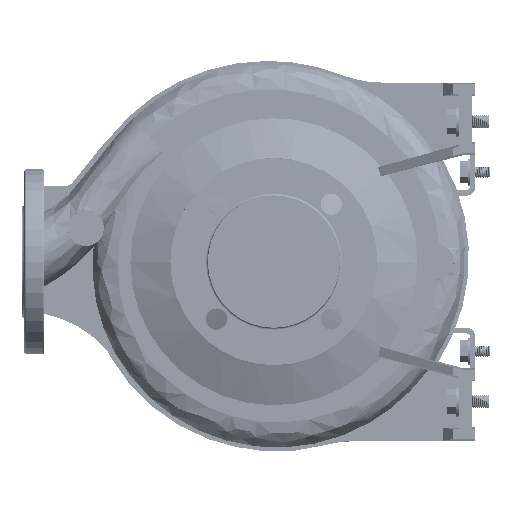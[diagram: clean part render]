
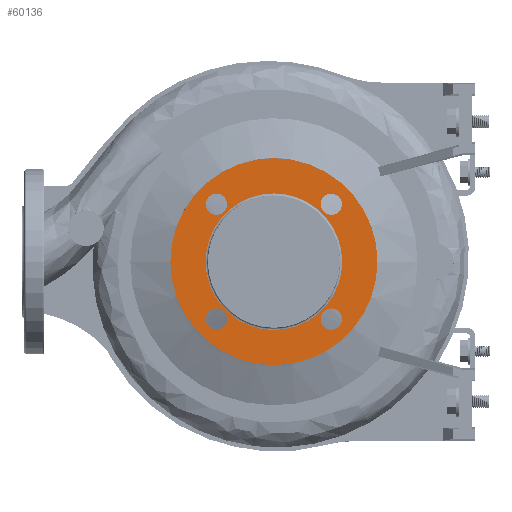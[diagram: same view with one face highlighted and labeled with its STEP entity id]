
A CAD part, left-side view. The second image highlights one B-rep face of the part: STEP entity #60136.
In plain terms, the highlighted planar face has unit normal (-1, 0, 0).
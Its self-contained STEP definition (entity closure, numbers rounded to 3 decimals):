
#426 = DIRECTION ( 'NONE',  ( 0., 0., -1. ) ) ;
#3288 = CARTESIAN_POINT ( 'NONE',  ( -98., 0., 0. ) ) ;
#3597 = CARTESIAN_POINT ( 'NONE',  ( -98., 60.765, 51.265 ) ) ;
#5066 = ORIENTED_EDGE ( 'NONE', *, *, #67155, .F. ) ;
#7021 = ORIENTED_EDGE ( 'NONE', *, *, #65259, .F. ) ;
#7840 = EDGE_CURVE ( 'NONE', #17638, #95635, #43391, .T. ) ;
#8721 = DIRECTION ( 'NONE',  ( -1., 0., 0. ) ) ;
#11951 = VERTEX_POINT ( 'NONE', #48218 ) ;
#14403 = AXIS2_PLACEMENT_3D ( 'NONE', #55106, #112552, #170021 ) ;
#15133 = ORIENTED_EDGE ( 'NONE', *, *, #93824, .F. ) ;
#17638 = VERTEX_POINT ( 'NONE', #85468 ) ;
#21694 = VERTEX_POINT ( 'NONE', #23936 ) ;
#21906 = AXIS2_PLACEMENT_3D ( 'NONE', #97969, #40513, #111174 ) ;
#21968 = AXIS2_PLACEMENT_3D ( 'NONE', #27007, #85423, #171151 ) ;
#23401 = CARTESIAN_POINT ( 'NONE',  ( -98., -41.765, -51.265 ) ) ;
#23936 = CARTESIAN_POINT ( 'NONE',  ( -98., 61., 0. ) ) ;
#24177 = AXIS2_PLACEMENT_3D ( 'NONE', #75425, #132906, #47154 ) ;
#27007 = CARTESIAN_POINT ( 'NONE',  ( -98., -51.265, -51.265 ) ) ;
#27741 = CIRCLE ( 'NONE', #154196, 61. ) ;
#28287 = CARTESIAN_POINT ( 'NONE',  ( -98., 61., 0. ) ) ;
#29274 = ORIENTED_EDGE ( 'NONE', *, *, #75488, .F. ) ;
#30575 = VERTEX_POINT ( 'NONE', #23401 ) ;
#35397 = CIRCLE ( 'NONE', #14403, 9.5 ) ;
#36967 = CIRCLE ( 'NONE', #21906, 9.5 ) ;
#38273 = AXIS2_PLACEMENT_3D ( 'NONE', #171871, #42796, #426 ) ;
#39004 = VERTEX_POINT ( 'NONE', #171833 ) ;
#40513 = DIRECTION ( 'NONE',  ( -1., 0., 0. ) ) ;
#41436 = DIRECTION ( 'NONE',  ( -1., 0., 0. ) ) ;
#42796 = DIRECTION ( 'NONE',  ( -1., 0., 0. ) ) ;
#43391 = CIRCLE ( 'NONE', #73548, 9.5 ) ;
#46056 = CIRCLE ( 'NONE', #21968, 9.5 ) ;
#47154 = DIRECTION ( 'NONE',  ( 0., 1., 0. ) ) ;
#47281 = CIRCLE ( 'NONE', #152617, 9.5 ) ;
#47851 = EDGE_CURVE ( 'NONE', #151304, #21694, #105858, .T. ) ;
#48218 = CARTESIAN_POINT ( 'NONE',  ( -98., -60.765, -51.265 ) ) ;
#48720 = AXIS2_PLACEMENT_3D ( 'NONE', #3288, #60767, #161551 ) ;
#50212 = DIRECTION ( 'NONE',  ( 0., 0., 1. ) ) ;
#50388 = EDGE_CURVE ( 'NONE', #21694, #151304, #27741, .T. ) ;
#50608 = VERTEX_POINT ( 'NONE', #63785 ) ;
#55106 = CARTESIAN_POINT ( 'NONE',  ( -98., 51.265, 51.265 ) ) ;
#55589 = FACE_BOUND ( 'NONE', #142509, .T. ) ;
#57538 = DIRECTION ( 'NONE',  ( 0., 0., 1. ) ) ;
#57964 = AXIS2_PLACEMENT_3D ( 'NONE', #28287, #41436, #170520 ) ;
#60109 = CARTESIAN_POINT ( 'NONE',  ( -98., 51.265, 51.265 ) ) ;
#60136 = ADVANCED_FACE ( 'NONE', ( #168658, #55589, #87565, #160129, #145077, #171443 ), #185575, .T. ) ;
#60767 = DIRECTION ( 'NONE',  ( 1., 0., 0. ) ) ;
#62788 = EDGE_LOOP ( 'NONE', ( #5066, #173967 ) ) ;
#63785 = CARTESIAN_POINT ( 'NONE',  ( -98., 92.5, 0. ) ) ;
#64907 = VERTEX_POINT ( 'NONE', #125473 ) ;
#65259 = EDGE_CURVE ( 'NONE', #86017, #50608, #138951, .T. ) ;
#67155 = EDGE_CURVE ( 'NONE', #64907, #105768, #35397, .T. ) ;
#67720 = CARTESIAN_POINT ( 'NONE',  ( -98., -51.265, 60.765 ) ) ;
#68013 = AXIS2_PLACEMENT_3D ( 'NONE', #87654, #134493, #57538 ) ;
#68618 = DIRECTION ( 'NONE',  ( 1., 0., 0. ) ) ;
#69311 = CARTESIAN_POINT ( 'NONE',  ( -98., -92.5, 0. ) ) ;
#73548 = AXIS2_PLACEMENT_3D ( 'NONE', #179273, #8721, #50212 ) ;
#74214 = EDGE_CURVE ( 'NONE', #30575, #11951, #46056, .T. ) ;
#75425 = CARTESIAN_POINT ( 'NONE',  ( -98., 0., 0. ) ) ;
#75488 = EDGE_CURVE ( 'NONE', #50608, #86017, #167297, .T. ) ;
#84407 = DIRECTION ( 'NONE',  ( 0., 1., 0. ) ) ;
#85423 = DIRECTION ( 'NONE',  ( -1., 0., 0. ) ) ;
#85468 = CARTESIAN_POINT ( 'NONE',  ( -98., 51.265, -60.765 ) ) ;
#85473 = CARTESIAN_POINT ( 'NONE',  ( -98., 51.265, -41.765 ) ) ;
#86017 = VERTEX_POINT ( 'NONE', #69311 ) ;
#87565 = FACE_BOUND ( 'NONE', #92502, .T. ) ;
#87654 = CARTESIAN_POINT ( 'NONE',  ( -98., 51.265, -51.265 ) ) ;
#92502 = EDGE_LOOP ( 'NONE', ( #93793, #15133 ) ) ;
#93536 = AXIS2_PLACEMENT_3D ( 'NONE', #60109, #181296, #161836 ) ;
#93793 = ORIENTED_EDGE ( 'NONE', *, *, #137708, .F. ) ;
#93824 = EDGE_CURVE ( 'NONE', #39004, #166674, #36967, .T. ) ;
#95635 = VERTEX_POINT ( 'NONE', #85473 ) ;
#97969 = CARTESIAN_POINT ( 'NONE',  ( -98., -51.265, 51.265 ) ) ;
#101108 = AXIS2_PLACEMENT_3D ( 'NONE', #124065, #184296, #84407 ) ;
#103373 = EDGE_CURVE ( 'NONE', #11951, #30575, #47281, .T. ) ;
#103520 = ORIENTED_EDGE ( 'NONE', *, *, #47851, .T. ) ;
#105768 = VERTEX_POINT ( 'NONE', #3597 ) ;
#105858 = CIRCLE ( 'NONE', #48720, 61. ) ;
#111174 = DIRECTION ( 'NONE',  ( 0., 0., -1. ) ) ;
#112388 = CARTESIAN_POINT ( 'NONE',  ( -98., -61., 0. ) ) ;
#112552 = DIRECTION ( 'NONE',  ( -1., 0., 0. ) ) ;
#114518 = CIRCLE ( 'NONE', #93536, 9.5 ) ;
#117000 = EDGE_LOOP ( 'NONE', ( #135032, #103520 ) ) ;
#120949 = ORIENTED_EDGE ( 'NONE', *, *, #7840, .F. ) ;
#124065 = CARTESIAN_POINT ( 'NONE',  ( -98., 0., 0. ) ) ;
#125473 = CARTESIAN_POINT ( 'NONE',  ( -98., 41.765, 51.265 ) ) ;
#127147 = EDGE_CURVE ( 'NONE', #105768, #64907, #114518, .T. ) ;
#127463 = CARTESIAN_POINT ( 'NONE',  ( -98., -51.265, -51.265 ) ) ;
#132432 = ORIENTED_EDGE ( 'NONE', *, *, #135997, .F. ) ;
#132906 = DIRECTION ( 'NONE',  ( 1., 0., 0. ) ) ;
#134493 = DIRECTION ( 'NONE',  ( -1., 0., 0. ) ) ;
#135032 = ORIENTED_EDGE ( 'NONE', *, *, #50388, .T. ) ;
#135997 = EDGE_CURVE ( 'NONE', #95635, #17638, #149280, .T. ) ;
#137708 = EDGE_CURVE ( 'NONE', #166674, #39004, #179795, .T. ) ;
#138951 = CIRCLE ( 'NONE', #24177, 92.5 ) ;
#142509 = EDGE_LOOP ( 'NONE', ( #179370, #158077 ) ) ;
#143032 = CARTESIAN_POINT ( 'NONE',  ( -98., 0., 0. ) ) ;
#145077 = FACE_BOUND ( 'NONE', #117000, .T. ) ;
#149280 = CIRCLE ( 'NONE', #68013, 9.5 ) ;
#151304 = VERTEX_POINT ( 'NONE', #112388 ) ;
#152617 = AXIS2_PLACEMENT_3D ( 'NONE', #127463, #184909, #170777 ) ;
#152791 = EDGE_LOOP ( 'NONE', ( #132432, #120949 ) ) ;
#154196 = AXIS2_PLACEMENT_3D ( 'NONE', #143032, #68618, #177772 ) ;
#158077 = ORIENTED_EDGE ( 'NONE', *, *, #74214, .F. ) ;
#160129 = FACE_BOUND ( 'NONE', #62788, .T. ) ;
#161551 = DIRECTION ( 'NONE',  ( 0., 1., 0. ) ) ;
#161836 = DIRECTION ( 'NONE',  ( 0., -1., 0. ) ) ;
#166674 = VERTEX_POINT ( 'NONE', #67720 ) ;
#167297 = CIRCLE ( 'NONE', #101108, 92.5 ) ;
#167748 = EDGE_LOOP ( 'NONE', ( #29274, #7021 ) ) ;
#168658 = FACE_BOUND ( 'NONE', #152791, .T. ) ;
#170021 = DIRECTION ( 'NONE',  ( 0., -1., 0. ) ) ;
#170520 = DIRECTION ( 'NONE',  ( 0., -1., 0. ) ) ;
#170777 = DIRECTION ( 'NONE',  ( 0., 1., 0. ) ) ;
#171151 = DIRECTION ( 'NONE',  ( 0., 1., 0. ) ) ;
#171443 = FACE_OUTER_BOUND ( 'NONE', #167748, .T. ) ;
#171833 = CARTESIAN_POINT ( 'NONE',  ( -98., -51.265, 41.765 ) ) ;
#171871 = CARTESIAN_POINT ( 'NONE',  ( -98., -51.265, 51.265 ) ) ;
#173967 = ORIENTED_EDGE ( 'NONE', *, *, #127147, .F. ) ;
#177772 = DIRECTION ( 'NONE',  ( 0., 1., 0. ) ) ;
#179273 = CARTESIAN_POINT ( 'NONE',  ( -98., 51.265, -51.265 ) ) ;
#179370 = ORIENTED_EDGE ( 'NONE', *, *, #103373, .F. ) ;
#179795 = CIRCLE ( 'NONE', #38273, 9.5 ) ;
#181296 = DIRECTION ( 'NONE',  ( -1., 0., 0. ) ) ;
#184296 = DIRECTION ( 'NONE',  ( 1., 0., 0. ) ) ;
#184909 = DIRECTION ( 'NONE',  ( -1., 0., 0. ) ) ;
#185575 = PLANE ( 'NONE',  #57964 ) ;
